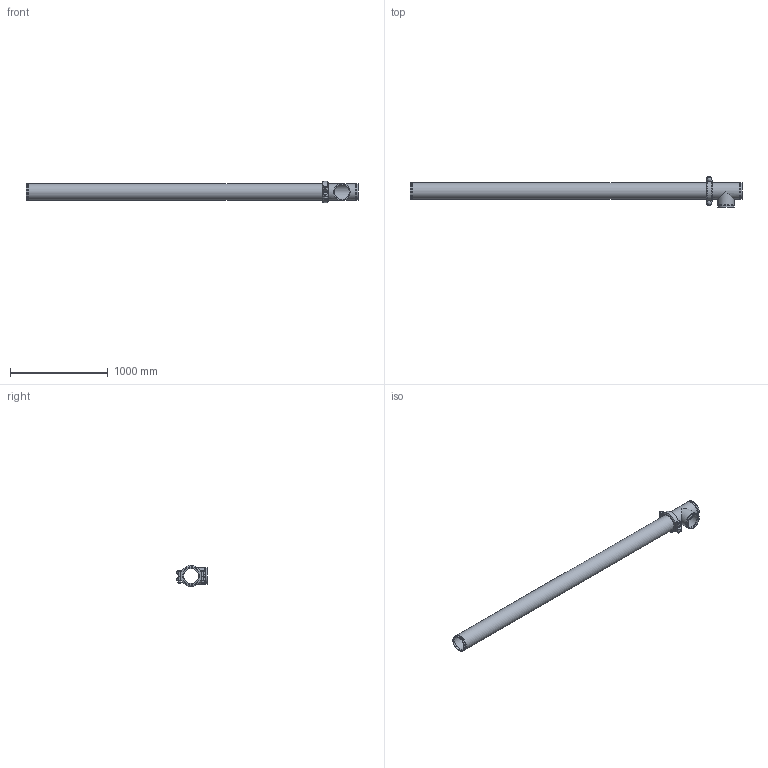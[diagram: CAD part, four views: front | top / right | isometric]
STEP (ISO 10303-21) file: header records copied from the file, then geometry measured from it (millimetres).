
FILE_DESCRIPTION(/* description */ ('VIC LONG RUN FITTING No R25 (OGS)','CAx-IF Rec.Pracs.---Representation and Presentation of Product Manufacturing Information (PMI)---4.0---2014-10-13'),/* implementation_level */ '2;1');
FILE_NAME(/* name */ 'C:\Users\Vjadhav\AppData\Roaming\Autodesk\ApplicationPlugins\Back Up\Victaulic_IPS_Long Run Fittings_No R25 (OGS)\Victaulic_IPS_Long Run Fittings_No R25 (OGS)_6 (150).stp',/* time_stamp */ '2020-10-14T10:39:02+05:00',/* author */ ('Vjadhav'),/* organization */ ('Victaulic'),/* preprocessor_version */ 'ST-DEVELOPER v17.2',/* originating_system */ 'Autodesk Inventor 2019',/* authorisation */ '');
FILE_SCHEMA (('AP242_MANAGED_MODEL_BASED_3D_ENGINEERING_MIM_LF { 1 0 10303 442 1 1 4 }'));
Length unit declared in the file: inch
Products named in the file (4): R25-06.0; 020-06.0; 177N-06.0; Pipe_R13-06.0
Assembly tree (3 placements, depth 2):
  R25-06.0
    020-06.0
    177N-06.0
    Pipe_R13-06.0
Bounding box: 3387.85 x 312.15 x 218.43 mm (x, y, z)
Volume: 13624569.6 mm3; surface area: 3671257.6 mm2
Topology: 3 solids, 3 shells, 122 faces, 323 edges, 222 vertices
Faces by surface type: plane 71, cylinder 41, cone 4, torus 4, sphere 2
Full cylindrical faces by diameter (mm): 19.05 x2, 37.694 x2, 154.051 x3, 155.575 x1, 163.957 x5, 168.275 x10
Entity records: 4247 total; most frequent: CARTESIAN_POINT 750, DIRECTION 711, ORIENTED_EDGE 654, EDGE_CURVE 327, AXIS2_PLACEMENT_3D 271, VERTEX_POINT 222, LINE 169, VECTOR 169
